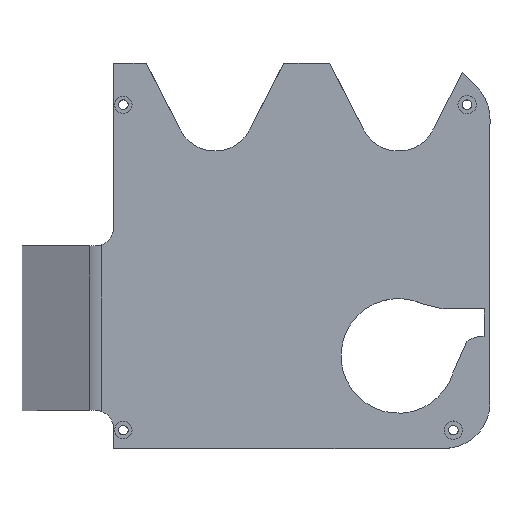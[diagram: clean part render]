
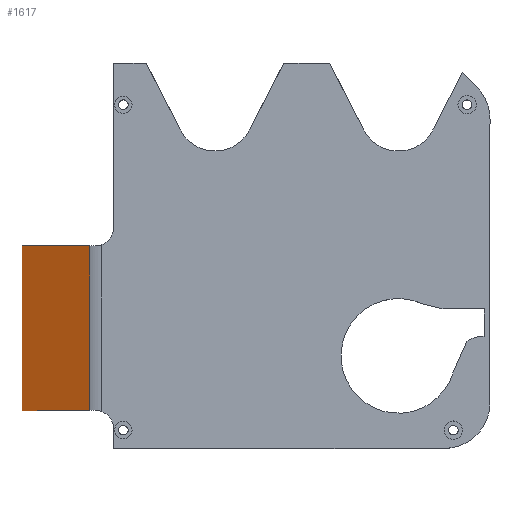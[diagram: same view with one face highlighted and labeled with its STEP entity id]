
A CAD part, top view. The second image highlights one B-rep face of the part: STEP entity #1617.
In plain terms, the highlighted planar face has unit normal (-0.447, 0, 0.894) as drawn and (0.447, 0, -0.894) by its records, which use the part's own axes.
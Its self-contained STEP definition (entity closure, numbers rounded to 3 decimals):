
#33 = CARTESIAN_POINT ( 'NONE',  ( 42.1, 2.2, 8. ) ) ;
#145 = LINE ( 'NONE', #1054, #1022 ) ;
#177 = LINE ( 'NONE', #312, #1747 ) ;
#245 = VERTEX_POINT ( 'NONE', #33 ) ;
#307 = EDGE_CURVE ( 'NONE', #1203, #1536, #145, .T. ) ;
#311 = CARTESIAN_POINT ( 'NONE',  ( 27.367, 2.2, 0.633 ) ) ;
#312 = CARTESIAN_POINT ( 'NONE',  ( 26.1, 2.2, 0. ) ) ;
#379 = VECTOR ( 'NONE', #1939, 1000. ) ;
#504 = DIRECTION ( 'NONE',  ( 0.447, 0., -0.894 ) ) ;
#523 = LINE ( 'NONE', #2052, #1493 ) ;
#638 = FACE_OUTER_BOUND ( 'NONE', #1012, .T. ) ;
#650 = DIRECTION ( 'NONE',  ( -0.894, 0., -0.447 ) ) ;
#669 = ORIENTED_EDGE ( 'NONE', *, *, #795, .T. ) ;
#688 = CARTESIAN_POINT ( 'NONE',  ( 27.367, -33.7, 0.633 ) ) ;
#795 = EDGE_CURVE ( 'NONE', #245, #1276, #1421, .T. ) ;
#855 = DIRECTION ( 'NONE',  ( 0.894, 0., 0.447 ) ) ;
#1012 = EDGE_LOOP ( 'NONE', ( #1364, #1123, #1937, #669 ) ) ;
#1022 = VECTOR ( 'NONE', #1741, 1000. ) ;
#1054 = CARTESIAN_POINT ( 'NONE',  ( 27.367, 2.2, 0.633 ) ) ;
#1088 = CARTESIAN_POINT ( 'NONE',  ( 42.1, -33.7, 8. ) ) ;
#1123 = ORIENTED_EDGE ( 'NONE', *, *, #307, .T. ) ;
#1170 = EDGE_CURVE ( 'NONE', #1536, #245, #177, .T. ) ;
#1203 = VERTEX_POINT ( 'NONE', #688 ) ;
#1208 = DIRECTION ( 'NONE',  ( 0.894, 0., 0.447 ) ) ;
#1215 = EDGE_CURVE ( 'NONE', #1203, #1276, #523, .T. ) ;
#1276 = VERTEX_POINT ( 'NONE', #1088 ) ;
#1313 = AXIS2_PLACEMENT_3D ( 'NONE', #1325, #504, #650 ) ;
#1325 = CARTESIAN_POINT ( 'NONE',  ( 26.1, 2.2, 0. ) ) ;
#1364 = ORIENTED_EDGE ( 'NONE', *, *, #1215, .F. ) ;
#1421 = LINE ( 'NONE', #1916, #379 ) ;
#1493 = VECTOR ( 'NONE', #1208, 1000. ) ;
#1536 = VERTEX_POINT ( 'NONE', #311 ) ;
#1617 = ADVANCED_FACE ( 'NONE', ( #638 ), #2043, .T. ) ;
#1741 = DIRECTION ( 'NONE',  ( 0., 1., 0. ) ) ;
#1747 = VECTOR ( 'NONE', #855, 1000. ) ;
#1916 = CARTESIAN_POINT ( 'NONE',  ( 42.1, 2.2, 8. ) ) ;
#1937 = ORIENTED_EDGE ( 'NONE', *, *, #1170, .T. ) ;
#1939 = DIRECTION ( 'NONE',  ( 0., -1., 0. ) ) ;
#2043 = PLANE ( 'NONE',  #1313 ) ;
#2052 = CARTESIAN_POINT ( 'NONE',  ( 26.1, -33.7, 0. ) ) ;
